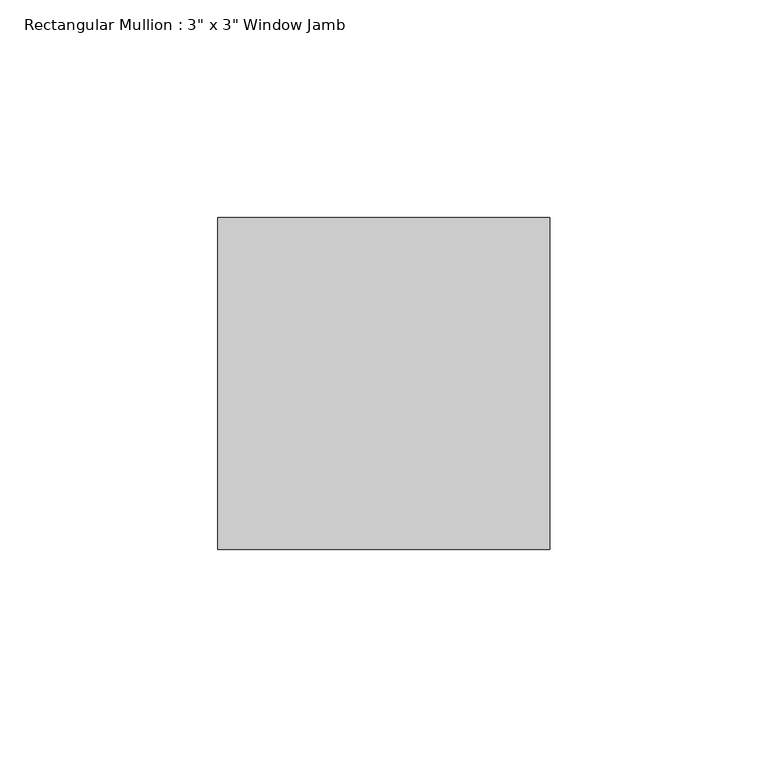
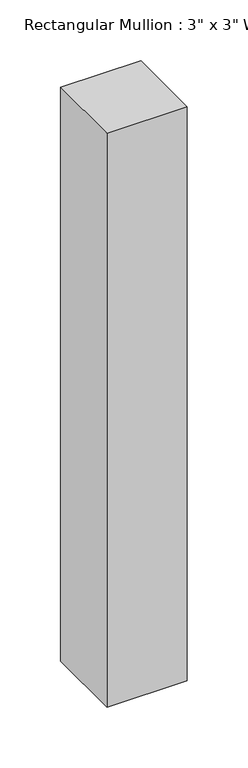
"""IFC4 building model written with IfcOpenShell, lengths in millimetres: member geometry."""

from ifc_helpers import new_model, si_unit, frame, origin, place, context, project, spatial, polyline, outline, extrude, source, transform, mapped, element, save


def member_a14e987e(model_context):
    return source(origin(), model_context, "Body", "SweptSolid", [
        extrude(outline(polyline([(0.0, 50.8), (0.0, -25.4), (-76.2, -25.4), (-76.2, 50.8), (0.0, 50.8)])), frame((0.0, 0.0, -575.7456956), z_axis=(0.0, 0.0, 1.0), x_axis=(1.0, 0.0, 0.0)), (0.0, 0.0, 1.0), 575.7456956),
    ])


if __name__ == "__main__":
    model = new_model("IFC4")
    model_context = context("Model", 3, world=origin())
    ifc_project = project(units=[si_unit("LENGTHUNIT", "METRE", prefix="MILLI")], contexts=[model_context])
    site = spatial("IfcSite", under=ifc_project)
    building = spatial("IfcBuilding", under=site)
    placement = place(None, origin())
    member_shape = member_a14e987e(model_context)
    element("IfcMember", 1, ObjectType="Rectangular Mullion : 3\" x 3\" Window Jamb", at=placement, inside=building, context=model_context, shape_type="MappedRepresentation", body=[
        mapped(member_shape, transform((0.0, 0.0, 0.0), x_axis=(1.0, 0.0, 0.0), y_axis=(0.0, 1.0, 0.0), z_axis=(0.0, 0.0, 1.0))),
    ])
    save(model, "model.ifc")
